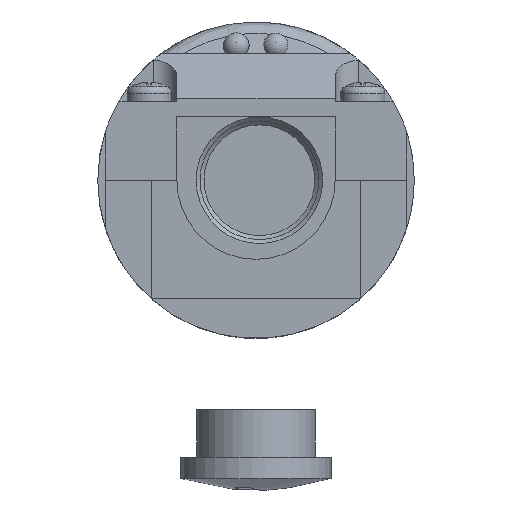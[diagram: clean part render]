
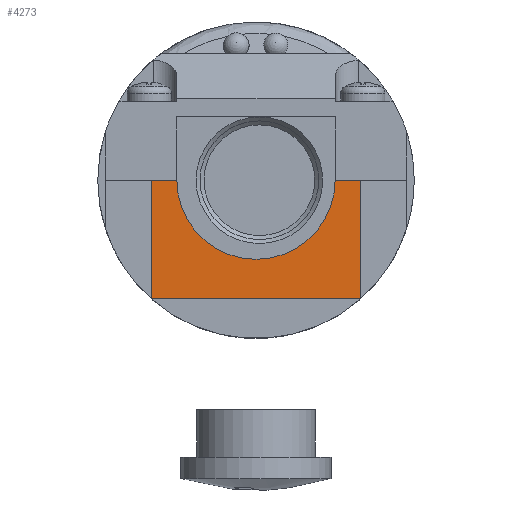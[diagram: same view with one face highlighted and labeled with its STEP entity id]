
A CAD part, front view. The second image highlights one B-rep face of the part: STEP entity #4273.
In plain terms, the highlighted planar face has unit normal (0, -1, 0).
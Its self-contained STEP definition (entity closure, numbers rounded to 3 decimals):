
#4090=CARTESIAN_POINT('',(10.,-102.,0.0));
#4091=VERTEX_POINT('',#4090);
#4098=CARTESIAN_POINT('',(13.229,-102.,0.0));
#4099=VERTEX_POINT('',#4098);
#4100=CARTESIAN_POINT('',(13.229,-102.,0.0));
#4101=DIRECTION('',(-1.0,0.0,0.0));
#4102=VECTOR('',#4101,3.229);
#4103=LINE('',#4100,#4102);
#4104=EDGE_CURVE('',#4099,#4091,#4103,.T.);
#4136=CARTESIAN_POINT('',(13.229,-102.,-15.0));
#4137=VERTEX_POINT('',#4136);
#4153=CARTESIAN_POINT('',(13.229,-102.,0.0));
#4154=DIRECTION('',(0.0,0.0,-1.0));
#4155=VECTOR('',#4154,15.0);
#4156=LINE('',#4153,#4155);
#4157=EDGE_CURVE('',#4099,#4137,#4156,.T.);
#4216=CARTESIAN_POINT('',(-13.229,-102.0,-15.0));
#4217=VERTEX_POINT('',#4216);
#4224=CARTESIAN_POINT('',(-13.229,-102.0,0.0));
#4225=VERTEX_POINT('',#4224);
#4226=CARTESIAN_POINT('',(-13.229,-102.0,0.0));
#4227=DIRECTION('',(0.0,0.0,-1.0));
#4228=VECTOR('',#4227,15.0);
#4229=LINE('',#4226,#4228);
#4230=EDGE_CURVE('',#4225,#4217,#4229,.T.);
#4242=CARTESIAN_POINT('',(13.229,-102.,0.0));
#4243=DIRECTION('',(0.0,1.0,0.0));
#4244=DIRECTION('',(0.0,0.0,-1.0));
#4245=AXIS2_PLACEMENT_3D('',#4242,#4243,#4244);
#4246=PLANE('',#4245);
#4247=CARTESIAN_POINT('',(-10.,-102.,0.));
#4248=VERTEX_POINT('',#4247);
#4249=CARTESIAN_POINT('',(0.,-102.,0.0));
#4250=DIRECTION('',(0.0,1.0,0.0));
#4251=DIRECTION('',(1.0,0.0,0.0));
#4252=AXIS2_PLACEMENT_3D('',#4249,#4250,#4251);
#4253=CIRCLE('',#4252,10.);
#4254=EDGE_CURVE('',#4091,#4248,#4253,.T.);
#4255=ORIENTED_EDGE('',*,*,#4254,.T.);
#4256=CARTESIAN_POINT('',(-10.,-102.,0.0));
#4257=DIRECTION('',(-1.0,0.0,0.0));
#4258=VECTOR('',#4257,3.229);
#4259=LINE('',#4256,#4258);
#4260=EDGE_CURVE('',#4248,#4225,#4259,.T.);
#4261=ORIENTED_EDGE('',*,*,#4260,.T.);
#4262=ORIENTED_EDGE('',*,*,#4230,.T.);
#4263=CARTESIAN_POINT('',(13.229,-102.,-15.0));
#4264=DIRECTION('',(-1.0,0.0,0.0));
#4265=VECTOR('',#4264,26.458);
#4266=LINE('',#4263,#4265);
#4267=EDGE_CURVE('',#4137,#4217,#4266,.T.);
#4268=ORIENTED_EDGE('',*,*,#4267,.F.);
#4269=ORIENTED_EDGE('',*,*,#4157,.F.);
#4270=ORIENTED_EDGE('',*,*,#4104,.T.);
#4271=EDGE_LOOP('',(#4255,#4261,#4262,#4268,#4269,#4270));
#4272=FACE_OUTER_BOUND('',#4271,.T.);
#4273=ADVANCED_FACE('',(#4272),#4246,.F.);
